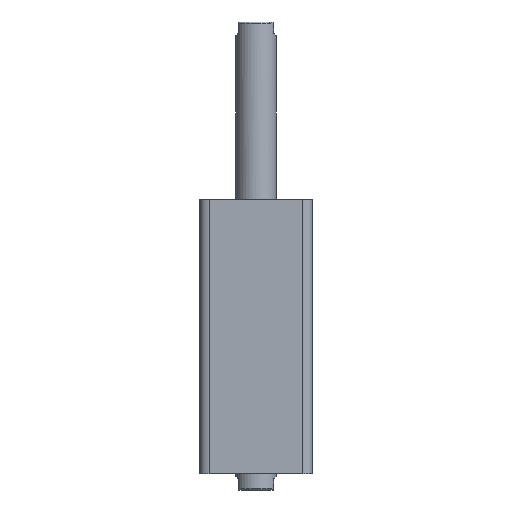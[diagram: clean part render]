
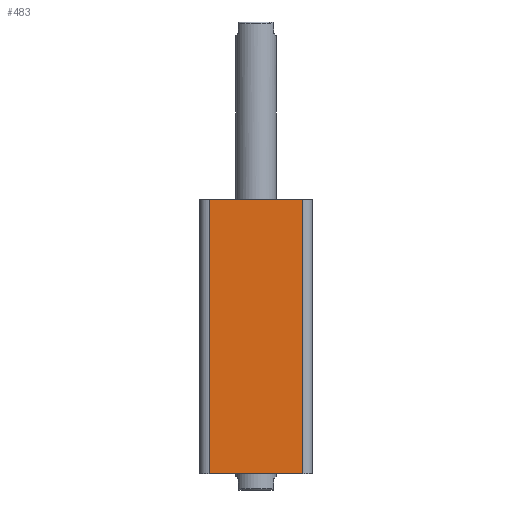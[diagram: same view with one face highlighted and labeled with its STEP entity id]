
A CAD part, front view. The second image highlights one B-rep face of the part: STEP entity #483.
In plain terms, the highlighted planar face has unit normal (0, -1, 0).
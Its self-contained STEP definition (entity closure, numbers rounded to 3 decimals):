
#123 = EDGE_LOOP ( 'NONE', ( #2985, #2986, #2987, #2988 ) ) ;
#483 = ADVANCED_FACE ( 'NONE', ( #1937 ), #1630, .F. ) ;
#597 = CARTESIAN_POINT ( 'NONE',  ( -35., -35., 0. ) ) ;
#622 = CARTESIAN_POINT ( 'NONE',  ( -35., -35., 170. ) ) ;
#623 = DIRECTION ( 'NONE',  ( 1., 0., 0. ) ) ;
#624 = CARTESIAN_POINT ( 'NONE',  ( -29., -35., 170. ) ) ;
#625 = DIRECTION ( 'NONE',  ( 0., 0., -1. ) ) ;
#626 = DIRECTION ( 'NONE',  ( 1., 0., 0. ) ) ;
#627 = CARTESIAN_POINT ( 'NONE',  ( 29., -35., 170. ) ) ;
#628 = DIRECTION ( 'NONE',  ( 0., 0., 1. ) ) ;
#1095 = LINE ( 'NONE', #597, #1108 ) ;
#1101 = LINE ( 'NONE', #622, #1104 ) ;
#1103 = LINE ( 'NONE', #624, #1106 ) ;
#1104 = VECTOR ( 'NONE', #623, 1000. ) ;
#1106 = VECTOR ( 'NONE', #625, 1000. ) ;
#1107 = LINE ( 'NONE', #627, #1110 ) ;
#1108 = VECTOR ( 'NONE', #626, 1000. ) ;
#1110 = VECTOR ( 'NONE', #628, 1000. ) ;
#1628 = CARTESIAN_POINT ( 'NONE',  ( -35., -35., 170. ) ) ;
#1630 = PLANE ( 'NONE',  #2803 ) ;
#1632 = DIRECTION ( 'NONE',  ( 0., 1., 0. ) ) ;
#1633 = DIRECTION ( 'NONE',  ( 0., 0., 1. ) ) ;
#1743 = CARTESIAN_POINT ( 'NONE',  ( -29., -35., 170. ) ) ;
#1759 = CARTESIAN_POINT ( 'NONE',  ( 29., -35., 170. ) ) ;
#1760 = CARTESIAN_POINT ( 'NONE',  ( -29., -35., 0. ) ) ;
#1761 = CARTESIAN_POINT ( 'NONE',  ( 29., -35., 0. ) ) ;
#1774 = VERTEX_POINT ( 'NONE', #1743 ) ;
#1784 = VERTEX_POINT ( 'NONE', #1759 ) ;
#1785 = VERTEX_POINT ( 'NONE', #1760 ) ;
#1786 = VERTEX_POINT ( 'NONE', #1761 ) ;
#1937 = FACE_OUTER_BOUND ( 'NONE', #123, .T. ) ;
#2690 = EDGE_CURVE ( 'NONE', #1774, #1784, #1101, .T. ) ;
#2691 = EDGE_CURVE ( 'NONE', #1774, #1785, #1103, .T. ) ;
#2692 = EDGE_CURVE ( 'NONE', #1785, #1786, #1095, .T. ) ;
#2693 = EDGE_CURVE ( 'NONE', #1786, #1784, #1107, .T. ) ;
#2803 = AXIS2_PLACEMENT_3D ( 'NONE', #1628, #1632, #1633 ) ;
#2985 = ORIENTED_EDGE ( 'NONE', *, *, #2690, .F. ) ;
#2986 = ORIENTED_EDGE ( 'NONE', *, *, #2691, .T. ) ;
#2987 = ORIENTED_EDGE ( 'NONE', *, *, #2692, .T. ) ;
#2988 = ORIENTED_EDGE ( 'NONE', *, *, #2693, .T. ) ;
